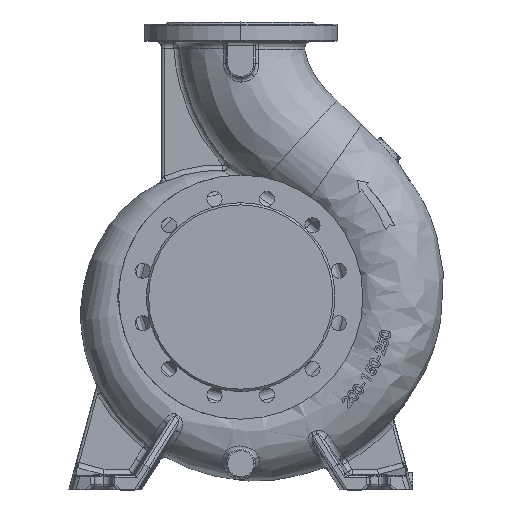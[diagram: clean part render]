
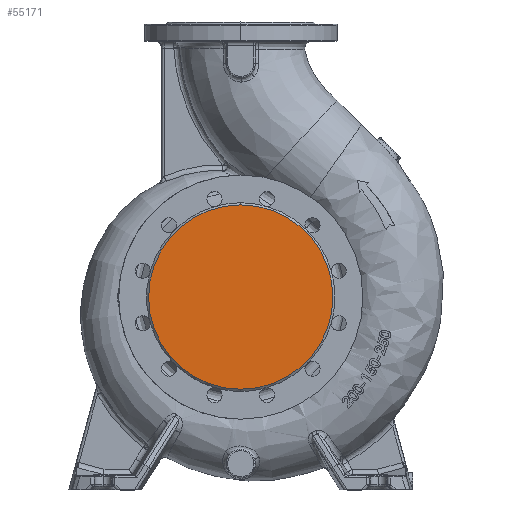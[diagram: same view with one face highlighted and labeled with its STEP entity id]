
A CAD part, top view. The second image highlights one B-rep face of the part: STEP entity #55171.
In plain terms, the highlighted planar face has unit normal (0, 0, 1).
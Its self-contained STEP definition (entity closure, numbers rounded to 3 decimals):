
#15570 = VERTEX_POINT ( 'NONE', #106665 ) ;
#25622 = AXIS2_PLACEMENT_3D ( 'NONE', #65078, #148842, #137282 ) ;
#31550 = ORIENTED_EDGE ( 'NONE', *, *, #70876, .F. ) ;
#43067 = PLANE ( 'NONE',  #25622 ) ;
#44934 = CARTESIAN_POINT ( 'NONE',  ( 0., 0., 160. ) ) ;
#46767 = EDGE_LOOP ( 'NONE', ( #31550, #75474 ) ) ;
#48554 = AXIS2_PLACEMENT_3D ( 'NONE', #114135, #127207, #68058 ) ;
#55171 = ADVANCED_FACE ( 'NONE', ( #118495 ), #43067, .F. ) ;
#55412 = DIRECTION ( 'NONE',  ( 0., 0., -1. ) ) ;
#65078 = CARTESIAN_POINT ( 'NONE',  ( 0., 0., 160. ) ) ;
#68058 = DIRECTION ( 'NONE',  ( 0., 1., 0. ) ) ;
#70876 = EDGE_CURVE ( 'NONE', #147705, #15570, #76080, .T. ) ;
#75474 = ORIENTED_EDGE ( 'NONE', *, *, #151113, .F. ) ;
#76080 = CIRCLE ( 'NONE', #109494, 134. ) ;
#103489 = DIRECTION ( 'NONE',  ( 0., 1., 0. ) ) ;
#106665 = CARTESIAN_POINT ( 'NONE',  ( 0., -134., 160. ) ) ;
#109494 = AXIS2_PLACEMENT_3D ( 'NONE', #44934, #55412, #103489 ) ;
#114135 = CARTESIAN_POINT ( 'NONE',  ( 0., 0., 160. ) ) ;
#118495 = FACE_OUTER_BOUND ( 'NONE', #46767, .T. ) ;
#127207 = DIRECTION ( 'NONE',  ( 0., 0., -1. ) ) ;
#130737 = CARTESIAN_POINT ( 'NONE',  ( 0., 134., 160. ) ) ;
#137282 = DIRECTION ( 'NONE',  ( 0., 1., 0. ) ) ;
#140246 = CIRCLE ( 'NONE', #48554, 134. ) ;
#147705 = VERTEX_POINT ( 'NONE', #130737 ) ;
#148842 = DIRECTION ( 'NONE',  ( 0., 0., -1. ) ) ;
#151113 = EDGE_CURVE ( 'NONE', #15570, #147705, #140246, .T. ) ;
